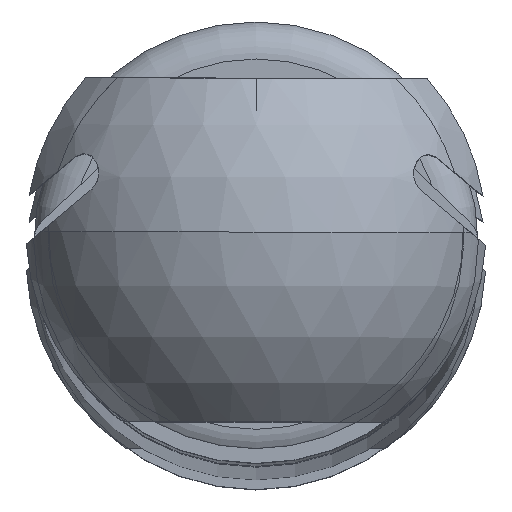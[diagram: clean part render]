
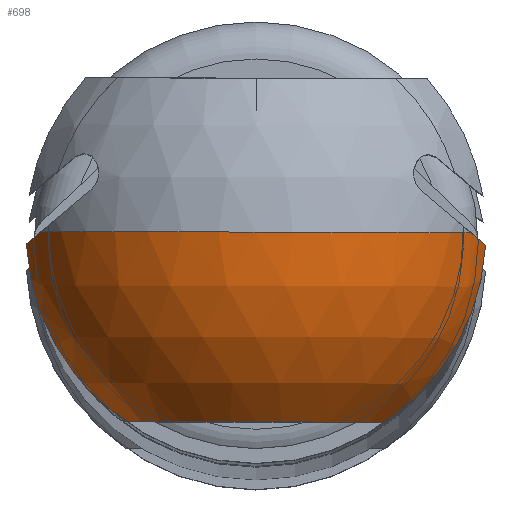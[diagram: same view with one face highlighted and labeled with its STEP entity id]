
A CAD part, top view. The second image highlights one B-rep face of the part: STEP entity #698.
In plain terms, the highlighted spherical face has radius 8.25 mm.
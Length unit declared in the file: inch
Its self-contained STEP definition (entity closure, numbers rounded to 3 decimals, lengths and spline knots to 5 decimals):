
#647 = EDGE_CURVE ( 'NONE', #3296, #3404, #3116, .T. ) ;
#649 = EDGE_CURVE ( 'NONE', #3405, #3406, #3084, .T. ) ;
#650 = EDGE_CURVE ( 'NONE', #3406, #3297, #3093, .T. ) ;
#659 = EDGE_CURVE ( 'NONE', #3403, #3405, #3122, .T. ) ;
#698 = ADVANCED_FACE ( 'NONE', ( #2412 ), #2407, .T. ) ;
#739 = EDGE_CURVE ( 'NONE', #3294, #3297, #1202, .T. ) ;
#757 = EDGE_CURVE ( 'NONE', #3294, #3296, #1197, .T. ) ;
#824 = EDGE_CURVE ( 'NONE', #3404, #3403, #2846, .T. ) ;
#1117 = AXIS2_PLACEMENT_3D ( 'NONE', #4228, #4227, #4226 ) ;
#1197 = CIRCLE ( 'NONE', #1208, 0.3248 ) ;
#1202 = CIRCLE ( 'NONE', #1204, 0.3248 ) ;
#1204 = AXIS2_PLACEMENT_3D ( 'NONE', #1927, #1946, #1947 ) ;
#1208 = AXIS2_PLACEMENT_3D ( 'NONE', #2066, #2068, #2058 ) ;
#1462 = DIRECTION ( 'NONE',  ( 0., 0., -1. ) ) ;
#1467 = DIRECTION ( 'NONE',  ( -1., 0., 0. ) ) ;
#1656 = CARTESIAN_POINT ( 'NONE',  ( -2.86614, 0.30509, 0.01621 ) ) ;
#1658 = CARTESIAN_POINT ( 'NONE',  ( -2.86614, 0.17279, 0.25197 ) ) ;
#1659 = CARTESIAN_POINT ( 'NONE',  ( -2.86614, -0.30509, 0.01621 ) ) ;
#1660 = CARTESIAN_POINT ( 'NONE',  ( -2.86614, -0.17279, 0.25197 ) ) ;
#1738 = CARTESIAN_POINT ( 'NONE',  ( -2.86614, 0., 0. ) ) ;
#1785 = CARTESIAN_POINT ( 'NONE',  ( -2.91027, 0.28578, 0. ) ) ;
#1786 = CARTESIAN_POINT ( 'NONE',  ( -2.91027, -0.28578, 0. ) ) ;
#1787 = CARTESIAN_POINT ( 'NONE',  ( -3.08071, 0., 0. ) ) ;
#1927 = CARTESIAN_POINT ( 'NONE',  ( -2.75591, 0., 0. ) ) ;
#1946 = DIRECTION ( 'NONE',  ( 0., 0., -1. ) ) ;
#1947 = DIRECTION ( 'NONE',  ( -1., 0., 0. ) ) ;
#2058 = DIRECTION ( 'NONE',  ( 1., 0., 0. ) ) ;
#2066 = CARTESIAN_POINT ( 'NONE',  ( -2.75591, 0., 0. ) ) ;
#2068 = DIRECTION ( 'NONE',  ( 0., 0., 1. ) ) ;
#2407 = SPHERICAL_SURFACE ( 'NONE', #1117, 0.3248 ) ;
#2412 = FACE_OUTER_BOUND ( 'NONE', #3741, .T. ) ;
#2797 = ORIENTED_EDGE ( 'NONE', *, *, #824, .T. ) ;
#2799 = ORIENTED_EDGE ( 'NONE', *, *, #739, .F. ) ;
#2800 = ORIENTED_EDGE ( 'NONE', *, *, #757, .T. ) ;
#2801 = ORIENTED_EDGE ( 'NONE', *, *, #647, .T. ) ;
#2803 = ORIENTED_EDGE ( 'NONE', *, *, #659, .T. ) ;
#2804 = ORIENTED_EDGE ( 'NONE', *, *, #649, .T. ) ;
#2805 = ORIENTED_EDGE ( 'NONE', *, *, #650, .T. ) ;
#2846 = CIRCLE ( 'NONE', #2941, 0.30552 ) ;
#2941 = AXIS2_PLACEMENT_3D ( 'NONE', #1738, #1467, #1462 ) ;
#3075 = AXIS2_PLACEMENT_3D ( 'NONE', #4656, #4655, #4654 ) ;
#3084 = CIRCLE ( 'NONE', #3145, 0.30552 ) ;
#3093 = CIRCLE ( 'NONE', #3144, 0.26787 ) ;
#3103 = AXIS2_PLACEMENT_3D ( 'NONE', #4624, #4621, #4620 ) ;
#3116 = CIRCLE ( 'NONE', #3075, 0.26787 ) ;
#3122 = CIRCLE ( 'NONE', #3103, 0.20496 ) ;
#3144 = AXIS2_PLACEMENT_3D ( 'NONE', #4647, #4645, #4644 ) ;
#3145 = AXIS2_PLACEMENT_3D ( 'NONE', #4650, #4649, #4648 ) ;
#3294 = VERTEX_POINT ( 'NONE', #1787 ) ;
#3296 = VERTEX_POINT ( 'NONE', #1786 ) ;
#3297 = VERTEX_POINT ( 'NONE', #1785 ) ;
#3403 = VERTEX_POINT ( 'NONE', #1660 ) ;
#3404 = VERTEX_POINT ( 'NONE', #1659 ) ;
#3405 = VERTEX_POINT ( 'NONE', #1658 ) ;
#3406 = VERTEX_POINT ( 'NONE', #1656 ) ;
#3741 = EDGE_LOOP ( 'NONE', ( #2799, #2800, #2801, #2797, #2803, #2804, #2805 ) ) ;
#4226 = DIRECTION ( 'NONE',  ( 0., -1., 0. ) ) ;
#4227 = DIRECTION ( 'NONE',  ( 0., 0., -1. ) ) ;
#4228 = CARTESIAN_POINT ( 'NONE',  ( -2.75591, 0., 0. ) ) ;
#4620 = DIRECTION ( 'NONE',  ( 1., 0., 0. ) ) ;
#4621 = DIRECTION ( 'NONE',  ( 0., 0., -1. ) ) ;
#4624 = CARTESIAN_POINT ( 'NONE',  ( -2.75591, 0., 0.25197 ) ) ;
#4644 = DIRECTION ( 'NONE',  ( 0., -0.766, -0.643 ) ) ;
#4645 = DIRECTION ( 'NONE',  ( 0., -0.643, 0.766 ) ) ;
#4647 = CARTESIAN_POINT ( 'NONE',  ( -2.75591, 0.11808, -0.14072 ) ) ;
#4648 = DIRECTION ( 'NONE',  ( 0., 0., -1. ) ) ;
#4649 = DIRECTION ( 'NONE',  ( -1., 0., 0. ) ) ;
#4650 = CARTESIAN_POINT ( 'NONE',  ( -2.86614, 0., 0. ) ) ;
#4654 = DIRECTION ( 'NONE',  ( 0., -0.766, 0.643 ) ) ;
#4655 = DIRECTION ( 'NONE',  ( 0., 0.643, 0.766 ) ) ;
#4656 = CARTESIAN_POINT ( 'NONE',  ( -2.75591, -0.11808, -0.14072 ) ) ;
